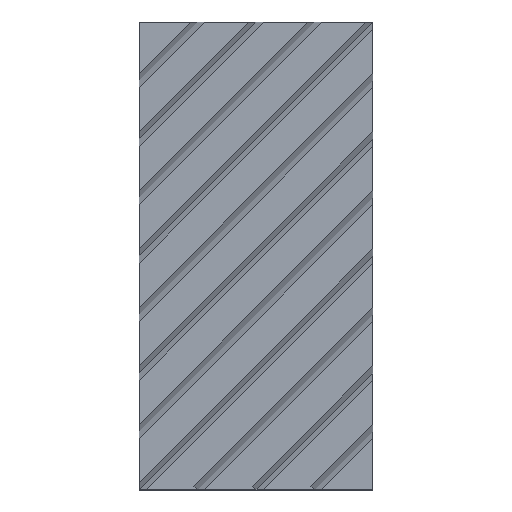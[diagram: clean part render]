
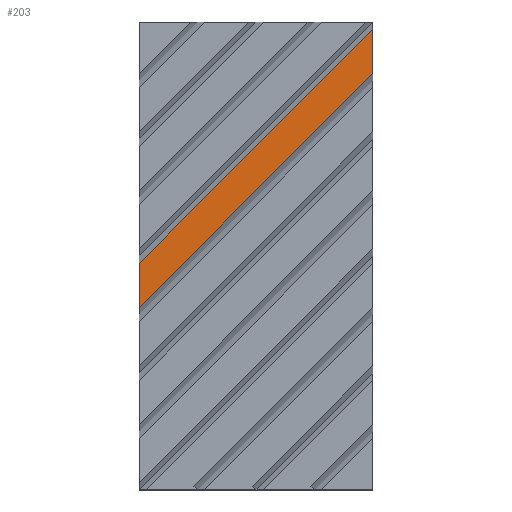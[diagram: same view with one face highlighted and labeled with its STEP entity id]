
A CAD part, top view. The second image highlights one B-rep face of the part: STEP entity #203.
In plain terms, the highlighted planar face has unit normal (0, 0, 1).
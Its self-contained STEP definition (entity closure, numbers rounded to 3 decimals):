
#30 = CARTESIAN_POINT ( 'NONE',  ( 290., 562.322, 25. ) ) ;
#68 = CARTESIAN_POINT ( 'NONE',  ( -290., -127.322, 25. ) ) ;
#184 = ORIENTED_EDGE ( 'NONE', *, *, #1259, .T. ) ;
#203 = ADVANCED_FACE ( 'NONE', ( #1283 ), #396, .T. ) ;
#274 = DIRECTION ( 'NONE',  ( 0.707, 0.707, 0. ) ) ;
#279 = DIRECTION ( 'NONE',  ( 0., 1., 0. ) ) ;
#338 = VERTEX_POINT ( 'NONE', #68 ) ;
#349 = LINE ( 'NONE', #1029, #593 ) ;
#359 = CARTESIAN_POINT ( 'NONE',  ( 290., 452.678, 25. ) ) ;
#394 = CARTESIAN_POINT ( 'NONE',  ( 290., 580., 25. ) ) ;
#396 = PLANE ( 'NONE',  #539 ) ;
#435 = EDGE_CURVE ( 'NONE', #651, #338, #1054, .T. ) ;
#474 = ORIENTED_EDGE ( 'NONE', *, *, #435, .F. ) ;
#494 = VERTEX_POINT ( 'NONE', #834 ) ;
#498 = DIRECTION ( 'NONE',  ( 1., 0., 0. ) ) ;
#499 = VECTOR ( 'NONE', #279, 1000. ) ;
#539 = AXIS2_PLACEMENT_3D ( 'NONE', #802, #1112, #498 ) ;
#593 = VECTOR ( 'NONE', #617, 1000. ) ;
#617 = DIRECTION ( 'NONE',  ( 0., -1., 0. ) ) ;
#651 = VERTEX_POINT ( 'NONE', #359 ) ;
#690 = VERTEX_POINT ( 'NONE', #30 ) ;
#765 = LINE ( 'NONE', #394, #499 ) ;
#784 = VECTOR ( 'NONE', #1133, 1000. ) ;
#793 = EDGE_CURVE ( 'NONE', #494, #690, #1152, .T. ) ;
#802 = CARTESIAN_POINT ( 'NONE',  ( 0., 0., 25. ) ) ;
#829 = CARTESIAN_POINT ( 'NONE',  ( -81.339, 81.339, 25. ) ) ;
#834 = CARTESIAN_POINT ( 'NONE',  ( -290., -17.678, 25. ) ) ;
#843 = EDGE_CURVE ( 'NONE', #651, #690, #765, .T. ) ;
#849 = VECTOR ( 'NONE', #274, 1000. ) ;
#1028 = ORIENTED_EDGE ( 'NONE', *, *, #843, .T. ) ;
#1029 = CARTESIAN_POINT ( 'NONE',  ( -290., 580., 25. ) ) ;
#1054 = LINE ( 'NONE', #829, #784 ) ;
#1087 = CARTESIAN_POINT ( 'NONE',  ( -136.161, 136.161, 25. ) ) ;
#1095 = EDGE_LOOP ( 'NONE', ( #1251, #184, #474, #1028 ) ) ;
#1112 = DIRECTION ( 'NONE',  ( 0., 0., 1. ) ) ;
#1133 = DIRECTION ( 'NONE',  ( -0.707, -0.707, 0. ) ) ;
#1152 = LINE ( 'NONE', #1087, #849 ) ;
#1251 = ORIENTED_EDGE ( 'NONE', *, *, #793, .F. ) ;
#1259 = EDGE_CURVE ( 'NONE', #494, #338, #349, .T. ) ;
#1283 = FACE_OUTER_BOUND ( 'NONE', #1095, .T. ) ;
